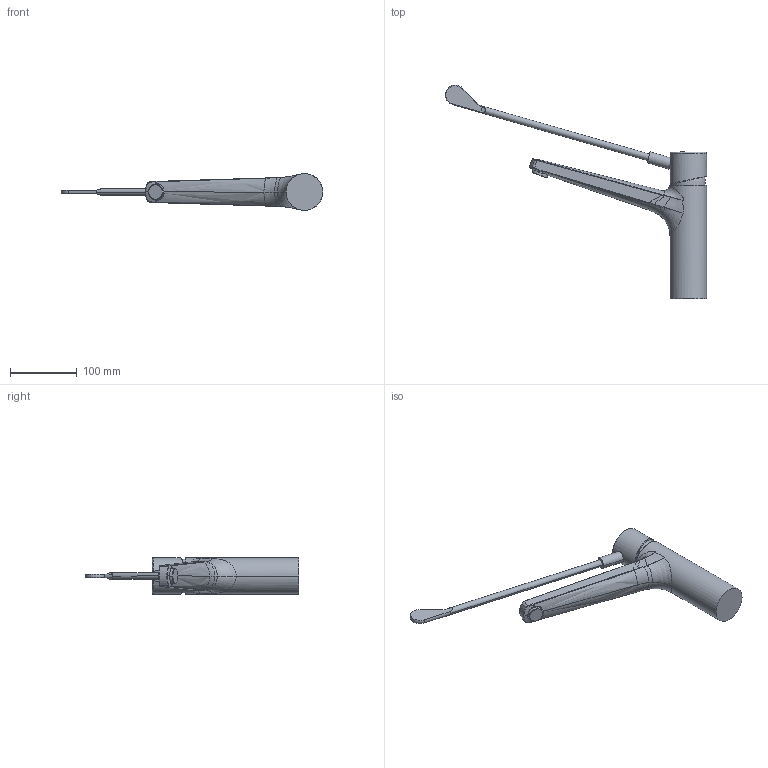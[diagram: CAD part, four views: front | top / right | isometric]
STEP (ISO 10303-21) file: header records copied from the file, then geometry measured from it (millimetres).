
FILE_DESCRIPTION((''),'2;1');
FILE_NAME('24_501_103_XXX','2012-01-03T',('HEF'),(''),'PRO/ENGINEER BY PARAMETRIC TECHNOLOGY CORPORATION, 2011080','PRO/ENGINEER BY PARAMETRIC TECHNOLOGY CORPORATION, 2011080','');
FILE_SCHEMA(('AUTOMOTIVE_DESIGN_CC2 { 1 2 10303 214 -1 1 5 2 }'));
Length unit declared in the file: millimetre
Products named in the file (1): 24_501_103_XXX
Bounding box: 392.59 x 321.31 x 55 mm (x, y, z)
Volume: 762203.8 mm3; surface area: 80222.2 mm2
Topology: 1 solids, 1 shells, 155 faces, 382 edges, 232 vertices
Faces by surface type: bspline 76, plane 43, cylinder 18, sphere 7, torus 7, extrusion 2, cone 2
Entity records: 12145 total; most frequent: CARTESIAN_POINT 7141, ORIENTED_EDGE 760, DIRECTION 531, EDGE_CURVE 380, FILL_AREA_STYLE_COLOUR 291, FILL_AREA_STYLE 291, SURFACE_STYLE_FILL_AREA 291, SURFACE_SIDE_STYLE 291
